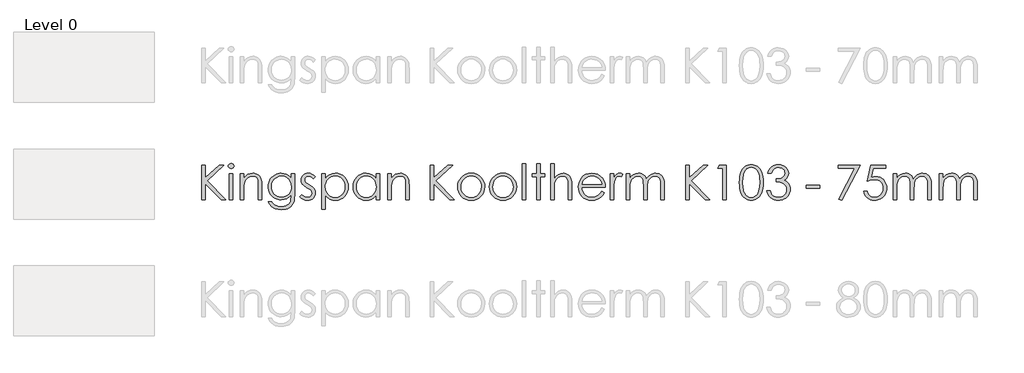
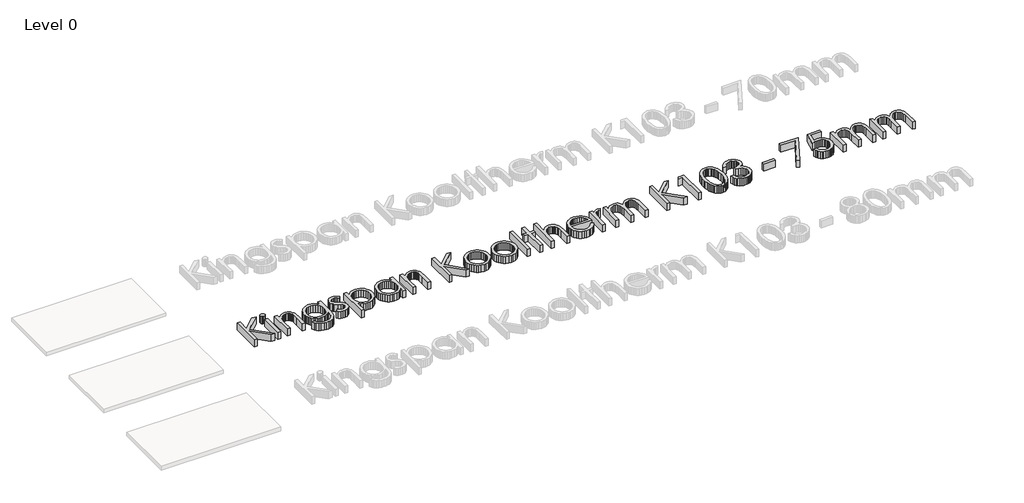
# One storey, part 8 of 13: 1 proxy.
"""IFC4 building model written with IfcOpenShell, lengths in millimetres."""

import ifcopenshell
import ifcopenshell.guid

model = None  # the IFC model being written
_history = None  # IfcOwnerHistory: only IFC2X3 demands one
_inside = {}  # id of a spatial element -> (the spatial element, [elements in it])
_under = {}  # id of a project, library or spatial element -> (it, [spatial elements below it])
_declared = {}  # id of a project -> (the project, [libraries it declares])
_typed = {}  # id of a type object -> (the type object, [elements of that type])
_made_of = {}  # id of a material, layer set ... -> (it, [elements and type objects made of it])


def new_model(schema):
    """Start an empty IFC model of exactly this schema.

    Asked for "IFC4X3", IfcOpenShell would pick the latest addendum, in which some entities
    have other attributes; the version numbers below select the first issue.
    IFC2X3 requires an IfcOwnerHistory on every rooted entity: one is made here for all.
    """
    global model, _history
    if schema == "IFC4X3":
        model = ifcopenshell.file(schema_version=(4, 3, 0, 0))
    else:
        model = ifcopenshell.file(schema=schema)
    _inside.clear()
    _under.clear()
    _declared.clear()
    _typed.clear()
    _made_of.clear()
    _history = None
    if model.schema == "IFC2X3":
        org = make("IfcOrganization", Name="unknown")
        user = make(
            "IfcPersonAndOrganization",
            ThePerson=make("IfcPerson", FamilyName="unknown"),
            TheOrganization=org,
        )
        app = make(
            "IfcApplication",
            ApplicationDeveloper=org,
            Version="unknown",
            ApplicationFullName="unknown",
            ApplicationIdentifier="unknown",
        )
        _history = make(
            "IfcOwnerHistory",
            OwningUser=user,
            OwningApplication=app,
            ChangeAction="ADDED",
            CreationDate=0,
        )
    return model


def make(cls, **values):
    """One entity of the class cls with the attributes given. An attribute that is None is left unset."""
    return model.create_entity(
        cls, **{name: value for name, value in values.items() if value is not None}
    )


def rooted(cls, **values):
    """An entity with a GlobalId (a new one), such as an element, a storey or a relation."""
    return make(cls, GlobalId=ifcopenshell.guid.new(), OwnerHistory=_history, **values)


def si_unit(unit_type, name, prefix=None):
    """IfcSIUnit, for example si_unit("LENGTHUNIT", "METRE", prefix="MILLI")."""
    return make("IfcSIUnit", UnitType=unit_type, Prefix=prefix, Name=name)


def assignment(units):
    """IfcUnitAssignment: the units of a project."""
    return None if units is None else make("IfcUnitAssignment", Units=units)


def point(xyz):
    """IfcCartesianPoint."""
    return None if xyz is None else make("IfcCartesianPoint", Coordinates=xyz)


def direction(xyz):
    """IfcDirection."""
    return None if xyz is None else make("IfcDirection", DirectionRatios=xyz)


def frame(location, z_axis=None, x_axis=None):
    """IfcAxis2Placement3D, a coordinate frame: its origin and axes. An axis left out is left unset."""
    return make(
        "IfcAxis2Placement3D",
        Location=point(location),
        Axis=direction(z_axis),
        RefDirection=direction(x_axis),
    )


def origin():
    """The frame at (0, 0, 0) with its axes left unset."""
    return frame((0.0, 0.0, 0.0))


def origin_with_axes():
    """The frame at (0, 0, 0) with the z axis (0, 0, 1) and the x axis (1, 0, 0) written out."""
    return frame((0.0, 0.0, 0.0), z_axis=(0.0, 0.0, 1.0), x_axis=(1.0, 0.0, 0.0))


def place(relative_to, where):
    """IfcLocalPlacement: puts the frame where relative to a parent placement (None: the world)."""
    return make(
        "IfcLocalPlacement", PlacementRelTo=relative_to, RelativePlacement=where
    )


def context(
    kind, dimensions, precision=None, world=None, true_north=None, identifier=None
):
    """IfcGeometricRepresentationContext, for example the 3D "Model" context."""
    return make(
        "IfcGeometricRepresentationContext",
        ContextIdentifier=identifier,
        ContextType=kind,
        CoordinateSpaceDimension=dimensions,
        Precision=precision,
        WorldCoordinateSystem=world,
        TrueNorth=true_north,
    )


def project(units=None, contexts=None):
    """IfcProject with its units and contexts."""
    return rooted(
        "IfcProject",
        Name="project",
        RepresentationContexts=contexts,
        UnitsInContext=assignment(units),
    )


def spatial(cls, under=None, at=None, **own):
    """A site, building, storey or space (cls), placed at a placement, below another one or the project."""
    s = rooted(cls, ObjectPlacement=at, **own)
    if under is not None:
        _under.setdefault(under.id(), (under, []))[1].append(s)
    return s


def polyline(points):
    """IfcPolyline through the points."""
    return make("IfcPolyline", Points=[point(p) for p in points])


def outline(outer, holes=None, kind="AREA"):
    """IfcArbitraryClosedProfileDef: a profile drawn as a closed curve; with holes, ...WithVoids."""
    if holes is None:
        return make("IfcArbitraryClosedProfileDef", ProfileType=kind, OuterCurve=outer)
    return make(
        "IfcArbitraryProfileDefWithVoids",
        ProfileType=kind,
        OuterCurve=outer,
        InnerCurves=holes,
    )


def extrude(swept, where, along, depth):
    """IfcExtrudedAreaSolid: the profile swept, set in the frame where, extruded along a direction by depth."""
    return make(
        "IfcExtrudedAreaSolid",
        SweptArea=swept,
        Position=where,
        ExtrudedDirection=direction(along),
        Depth=depth,
    )


def shape(context_of_items, identifier, shape_type, items):
    """IfcShapeRepresentation: the items that make up one representation, for example the "Body"."""
    return make(
        "IfcShapeRepresentation",
        ContextOfItems=context_of_items,
        RepresentationIdentifier=identifier,
        RepresentationType=shape_type,
        Items=items,
    )


def made_of(thing, what):
    """Note that an element or type object is made of a material, layer set ...; save() writes the relation."""
    if what is not None:
        _made_of.setdefault(what.id(), (what, []))[1].append(thing)
    return thing


def element(
    cls,
    number,
    at=None,
    inside=None,
    cuts=None,
    type_object=None,
    material=None,
    context=None,
    identifier="Body",
    shape_type=None,
    held_by="IfcProductDefinitionShape",
    body=None,
    shapes=None,
    **own,
):
    """One element of the class cls, such as IfcWall. Its Tag is "e" and its number.

    at: its placement. inside: the storey or other place that contains it. cuts: it is an
    opening in that element (IfcRelVoidsElement). A single representation is given by context,
    identifier, shape_type and body (its items); several are given by shapes. held_by: the class
    of the entity that holds the representations. save() writes the other relations.
    """
    e = rooted(cls, Tag="e%d" % number, ObjectPlacement=at, **own)
    if body is not None:
        shapes = [shape(context, identifier, shape_type, body)]
    if shapes is not None:
        e.Representation = make(held_by, Representations=shapes)
    if inside is not None:
        _inside.setdefault(inside.id(), (inside, []))[1].append(e)
    if cuts is not None:
        rooted(
            "IfcRelVoidsElement", RelatingBuildingElement=cuts, RelatedOpeningElement=e
        )
    if type_object is not None:
        _typed.setdefault(type_object.id(), (type_object, []))[1].append(e)
    return made_of(e, material)


def aggregate(whole, parts):
    """IfcRelAggregates: a whole, such as a stair, and the parts it consists of."""
    return rooted("IfcRelAggregates", RelatingObject=whole, RelatedObjects=parts)


def save(model, path):
    """Write the relations noted so far, then the file.

    IfcRelAggregates (storeys below a building ...), IfcRelContainedInSpatialStructure (elements
    in a storey), IfcRelDefinesByType, IfcRelAssociatesMaterial and IfcRelDeclares: one each for
    every whole, place, type object, material and project.
    """
    for whole, parts in _under.values():
        aggregate(whole, parts)
    for where, things in _inside.values():
        rooted(
            "IfcRelContainedInSpatialStructure",
            RelatedElements=things,
            RelatingStructure=where,
        )
    for kind, things in _typed.values():
        rooted("IfcRelDefinesByType", RelatedObjects=things, RelatingType=kind)
    for what, things in _made_of.values():
        rooted("IfcRelAssociatesMaterial", RelatedObjects=things, RelatingMaterial=what)
    for by, libraries in _declared.values():
        rooted("IfcRelDeclares", RelatingContext=by, RelatedDefinitions=libraries)
    model.write(path)


model = new_model("IFC4")

# Units and contexts
model_context = context("Model", 3, world=origin())
ifc_project = project(units=[si_unit("LENGTHUNIT", "METRE", prefix="MILLI")], contexts=[model_context])

# Site, building, storey
site = spatial("IfcSite", under=ifc_project)
building = spatial("IfcBuilding", under=site)
storey = spatial("IfcBuildingStorey", under=building, Name="Level 0", Elevation=0.0)

# Proxy
placement = place(None, origin())
element("IfcBuildingElementProxy", 1, Name="600mm KI_CenturyGothic", ObjectType="600mm KI_CenturyGothic", at=placement, inside=storey, context=model_context, shape_type="SweptSolid", body=[
    extrude(outline(polyline([(-3852.2663848, -4099.1034017), (-3792.944575, -4099.1034017), (-3792.944575, -4318.316027), (-3555.1938841, -4099.1034017), (-3471.6181051, -4099.1034017), (-3760.9664119, -4366.0515459), (-3441.9572002, -4692.3214999), (-3520.8984627, -4692.3214999), (-3792.944575, -4414.0960325), (-3792.944575, -4692.3214999), (-3852.2663848, -4692.3214999), (-3852.2663848, -4099.1034017)])), origin_with_axes(), (0.0, 0.0, 1.0), 150.0),
    extrude(outline(polyline([(-3348.1854852, -4069.4424967), (-3329.145347, -4072.7252792), (-3313.1176445, -4082.5736265), (-3302.226531, -4097.0178693), (-3298.5961598, -4114.088338), (-3302.226531, -4130.9270809), (-3313.1176445, -4145.2940817), (-3329.145347, -4155.142429), (-3348.1854852, -4158.4252115), (-3366.9938975, -4155.142429), (-3382.9443581, -4145.2940817), (-3393.8354717, -4130.9270809), (-3397.4658428, -4114.088338), (-3393.8354717, -4097.0178693), (-3382.9443581, -4082.5736265), (-3366.9938975, -4072.7252792), (-3348.1854852, -4069.4424967)])), origin_with_axes(), (0.0, 0.0, 1.0), 150.0),
    extrude(outline(polyline([(-3377.6919062, -4247.4079262), (-3318.3700964, -4247.4079262), (-3318.3700964, -4692.3214999), (-3377.6919062, -4692.3214999), (-3377.6919062, -4247.4079262)])), origin_with_axes(), (0.0, 0.0, 1.0), 150.0),
    extrude(outline(polyline([(-3189.8395084, -4247.4079262), (-3130.5176986, -4247.4079262), (-3130.5176986, -4326.5036726), (-3096.9946967, -4286.9944204), (-3060.0730495, -4259.303185), (-3019.7141359, -4242.9665147), (-2975.879335, -4237.5209579), (-2953.4357238, -4239.0995901), (-2932.2955704, -4243.8354865), (-2912.4588747, -4251.7286472), (-2893.9256368, -4262.7790723), (-2877.212412, -4276.5039994), (-2862.835756, -4292.4206667), (-2841.0921499, -4330.8292213), (-2833.6238199, -4355.2087086), (-2828.2892984, -4385.5551357), (-2824.0216812, -4464.1488095), (-2824.0216812, -4692.3214999), (-2883.343491, -4692.3214999), (-2883.343491, -4479.1337458), (-2883.343491, -4376.092998), (-2884.7290183, -4355.2956057), (-2889.8125035, -4337.2403023), (-2898.2849788, -4321.9270877), (-2910.1464442, -4309.355962), (-2924.7403432, -4299.5558909), (-2941.4101193, -4292.5558401), (-2980.977303, -4286.9557994), (-3005.3471351, -4289.1137461), (-3028.4038541, -4295.5875862), (-3050.1474602, -4306.3773197), (-3070.5779533, -4321.4829466), (-3088.6622225, -4339.7651482), (-3103.3671568, -4360.084606), (-3114.6927562, -4382.44132), (-3122.6390208, -4406.8352901), (-3128.5480292, -4453.9142525), (-3130.5176986, -4528.4141035), (-3130.5176986, -4692.3214999), (-3189.8395084, -4692.3214999), (-3189.8395084, -4247.4079262)])), origin_with_axes(), (0.0, 0.0, 1.0), 150.0),
    extrude(outline(polyline([(-2319.7862977, -4247.4079262), (-2260.4644879, -4247.4079262), (-2260.4644879, -4598.395301), (-2264.5196897, -4678.6496765), (-2269.588692, -4709.4499001), (-2276.6852953, -4734.0321474), (-2289.9371156, -4762.6454585), (-2307.2924139, -4787.7732271), (-2328.7511904, -4809.4154531), (-2354.3134448, -4827.5721366), (-2383.3226209, -4841.9343098), (-2415.122162, -4852.1930049), (-2449.7120682, -4858.348222), (-2487.0923395, -4860.3999611), (-2541.0458345, -4856.3833802), (-2589.206184, -4844.3336376), (-2630.260275, -4825.5059147), (-2662.8949946, -4801.1553932), (-2690.2000204, -4767.8061856), (-2715.2650299, -4721.9824048), (-2655.94322, -4721.9824048), (-2642.4355358, -4743.151524), (-2627.0933555, -4761.3951046), (-2609.9166791, -4776.7131468), (-2590.9055067, -4789.1056506), (-2569.7894914, -4798.6691682), (-2546.2982864, -4805.5002523), (-2492.1903075, -4810.9651195), (-2438.5071593, -4805.6354257), (-2415.083541, -4798.9733084), (-2393.93856, -4789.6463441), (-2359.6624492, -4765.6047903), (-2336.8567664, -4736.1176798), (-2329.3884364, -4717.4782342), (-2324.0539149, -4693.7697863), (-2319.7862977, -4631.1458835), (-2319.7862977, -4608.4367532), (-2354.757586, -4644.2190818), (-2396.6420279, -4670.6165148), (-2443.392712, -4686.8952536), (-2492.9627269, -4692.3214999), (-2522.4063889, -4690.4242447), (-2550.9521133, -4684.7324793), (-2578.5999001, -4675.2462036), (-2605.3497494, -4661.9654175), (-2630.1540674, -4645.4742634), (-2651.9652601, -4626.3568832), (-2670.7833277, -4604.6132772), (-2686.6082702, -4580.2434451), (-2699.1456025, -4553.9280817), (-2708.1008399, -4526.3478816), (-2713.4739824, -4497.5028447), (-2715.2650299, -4467.392971), (-2713.3967404, -4437.1044753), (-2707.7918722, -4407.8780563), (-2698.4504251, -4379.713714), (-2685.3723991, -4352.6114483), (-2668.9971079, -4327.4257483), (-2649.7638648, -4305.0111029), (-2627.67267, -4285.367512), (-2602.7235235, -4268.4949758), (-2575.9833294, -4254.943843), (-2548.5189922, -4245.2644624), (-2520.3305117, -4239.456834), (-2491.4178881, -4237.5209579), (-2444.5320306, -4242.4644421), (-2400.8903346, -4257.2948945), (-2359.6045177, -4283.8661218), (-2319.7862977, -4324.0319306), (-2319.7862977, -4247.4079262)]), holes=[polyline([(-2484.1571458, -4286.9557994), (-2529.0154023, -4292.9806707), (-2570.5908765, -4311.0552847), (-2606.2187212, -4339.7699758), (-2633.2340897, -4377.7150788), (-2650.2659375, -4421.9940208), (-2655.94322, -4469.7102292), (-2653.0080263, -4505.6229036), (-2644.2024452, -4538.2817613), (-2629.5264766, -4567.6868023), (-2608.9801206, -4593.8380266), (-2583.7606272, -4615.296803), (-2555.0652466, -4630.6245004), (-2522.8939786, -4639.8211189), (-2487.2468234, -4642.8866584), (-2451.3244937, -4639.845257), (-2419.1001219, -4630.7210528), (-2390.573708, -4615.5140459), (-2365.7452519, -4594.2242363), (-2345.6382095, -4567.9812872), (-2331.2760363, -4537.9148621), (-2322.6587323, -4504.024961), (-2319.7862977, -4466.3115838), (-2325.0773706, -4417.6105407), (-2340.9505892, -4374.3936754), (-2366.4983608, -4338.1672056), (-2400.8130926, -4310.4373492), (-2440.9982119, -4292.8261869), (-2484.1571458, -4286.9557994)])]), origin_with_axes(), (0.0, 0.0, 1.0), 150.0),
    extrude(outline(polyline([(-1904.5336289, -4298.6965743), (-1940.9918246, -4336.390641), (-1962.9575012, -4314.7628978), (-1984.6721416, -4299.3145098), (-2006.1357456, -4290.045477), (-2027.3483133, -4286.9557994), (-2052.181597, -4291.6289368), (-2073.2300256, -4305.6483489), (-2087.5970264, -4325.8857371), (-2092.3860267, -4349.212803), (-2088.4466878, -4370.7633042), (-2076.628671, -4391.2324183), (-2052.0657341, -4413.400855), (-2010.2006027, -4439.122421), (-1958.3326401, -4471.9888664), (-1939.8428507, -4487.8138088), (-1926.315856, -4503.2332311), (-1909.9791857, -4535.9065716), (-1904.5336289, -4572.4420092), (-1906.9474396, -4598.5884059), (-1914.1888714, -4622.6492701), (-1926.2579245, -4644.624602), (-1943.1545989, -4664.5144015), (-1963.6719892, -4681.0055557), (-1986.6031901, -4692.7849515), (-2011.9482016, -4699.852589), (-2039.7070237, -4702.2084682), (-2077.4397114, -4698.3270607), (-2113.3958344, -4686.6828383), (-2145.4512394, -4668.2027042), (-2171.4817731, -4643.8135617), (-2135.7959969, -4603.3387852), (-2114.0041146, -4624.9665283), (-2091.5749863, -4640.4149163), (-2068.5086121, -4649.6839491), (-2044.8049918, -4652.7736267), (-2013.637869, -4647.1349651), (-1987.4914724, -4630.2189802), (-1969.7644472, -4605.6560434), (-1963.8554388, -4577.0765256), (-1967.7561567, -4553.2860081), (-1979.4583106, -4532.2762005), (-2005.0253927, -4510.5712154), (-2050.2119275, -4483.7682622), (-2099.762632, -4453.1032121), (-2117.441381, -4437.9444814), (-2130.3890611, -4422.9016136), (-2146.3781427, -4390.7689666), (-2151.7078365, -4354.310771), (-2149.5305794, -4330.2643896), (-2142.9988078, -4308.3325063), (-2132.1125219, -4288.5151211), (-2116.8717217, -4270.812234), (-2098.309518, -4256.2473007), (-2077.4590218, -4245.8437769), (-2054.3202332, -4239.6016627), (-2028.8931521, -4237.5209579), (-1997.9481, -4241.3444339), (-1966.9064954, -4252.814862), (-1935.7683384, -4271.9322421), (-1904.5336289, -4298.6965743)])), origin_with_axes(), (0.0, 0.0, 1.0), 150.0),
    extrude(outline(polyline([(-1795.7769776, -4247.4079262), (-1736.4551678, -4247.4079262), (-1736.4551678, -4328.5119631), (-1700.9238754, -4288.2689124), (-1660.4490989, -4259.9211205), (-1614.9922173, -4243.1209986), (-1564.5146096, -4237.5209579), (-1520.0618732, -4241.7596094), (-1478.9305402, -4254.4755637), (-1441.1206107, -4275.668821), (-1406.6320845, -4305.3393811), (-1377.9077381, -4340.9768811), (-1357.3903478, -4380.070958), (-1345.0799137, -4422.6216116), (-1340.9764356, -4468.628842), (-1345.0412927, -4515.5291824), (-1357.235864, -4558.7508754), (-1377.5601494, -4598.293921), (-1406.014149, -4634.1583192), (-1440.2130179, -4663.9302594), (-1477.7719111, -4685.1959309), (-1518.6908288, -4697.9553339), (-1562.9697708, -4702.2084682), (-1612.6170277, -4696.743601), (-1658.0545988, -4680.3489992), (-1699.3211052, -4653.1019049), (-1736.4551678, -4615.07956), (-1736.4551678, -4850.5129928), (-1795.7769776, -4850.5129928), (-1795.7769776, -4247.4079262)]), holes=[polyline([(-1568.5311905, -4286.9557994), (-1602.5852307, -4290.2530647), (-1633.8392507, -4300.1448607), (-1662.2932503, -4316.6311872), (-1687.9472295, -4339.7120444), (-1709.1694525, -4367.6977647), (-1724.3281832, -4398.8986808), (-1733.4234216, -4433.3147926), (-1736.4551678, -4470.9461002), (-1731.048232, -4519.8016272), (-1714.8274246, -4563.4819442), (-1688.5265441, -4600.3263495), (-1652.8793888, -4628.6741414), (-1611.4390881, -4646.7487554), (-1567.7587711, -4652.7736267), (-1525.0632888, -4646.7101344), (-1485.0326535, -4628.5196576), (-1450.2544701, -4599.4187567), (-1423.3163435, -4560.6239924), (-1406.05277, -4515.9588407), (-1400.2982454, -4469.2467775), (-1405.9948385, -4422.3029886), (-1423.0846177, -4377.8695627), (-1449.8103289, -4339.5189395), (-1484.414718, -4310.8235589), (-1524.7157001, -4292.9227393), (-1568.5311905, -4286.9557994)])]), origin_with_axes(), (0.0, 0.0, 1.0), 150.0),
    extrude(outline(polyline([(-807.0801472, -4247.4079262), (-807.0801472, -4692.3214999), (-866.401957, -4692.3214999), (-866.401957, -4616.4699149), (-903.4780882, -4654.3184655), (-944.8797679, -4681.0441767), (-990.4525125, -4696.9173953), (-1040.0418379, -4702.2084682), (-1084.3159523, -4697.9553339), (-1125.2203871, -4685.1959309), (-1162.7551422, -4663.9302594), (-1196.9202178, -4634.1583192), (-1225.340424, -4598.293921), (-1245.6405713, -4558.7508754), (-1257.8206597, -4515.5291824), (-1261.8806892, -4468.628842), (-1257.7820388, -4422.6216116), (-1245.4860875, -4380.070958), (-1224.9928353, -4340.9768811), (-1196.3022822, -4305.3393811), (-1161.8475494, -4275.668821), (-1124.061758, -4254.4755637), (-1082.9449079, -4241.7596094), (-1038.4969991, -4237.5209579), (-987.7490446, -4243.1209986), (-942.0990581, -4259.9211205), (-921.2051134, -4272.6081091), (-901.6242816, -4288.2689124), (-866.401957, -4328.5119631), (-866.401957, -4247.4079262), (-807.0801472, -4247.4079262)]), holes=[polyline([(-1034.3259343, -4286.9557994), (-1078.1414247, -4292.9227393), (-1118.4424068, -4310.8235589), (-1153.0467959, -4339.5189395), (-1179.7725071, -4377.8695627), (-1196.8622863, -4422.3029886), (-1202.5588794, -4469.2467775), (-1196.8043548, -4515.9588407), (-1179.5407813, -4560.6239924), (-1152.6026548, -4599.4187567), (-1117.8244713, -4628.5196576), (-1077.6779731, -4646.7101344), (-1034.6349021, -4652.7736267), (-991.0125165, -4646.7487554), (-949.7460102, -4628.6741414), (-914.2726493, -4600.3263495), (-888.0297002, -4563.4819442), (-871.8088928, -4519.8016272), (-866.401957, -4470.9461002), (-869.4337032, -4433.3147926), (-878.5289416, -4398.8986808), (-893.6876723, -4367.6977647), (-914.9098953, -4339.7120444), (-940.5638746, -4316.6311872), (-969.0178742, -4300.1448607), (-1000.2718941, -4290.2530647), (-1034.3259343, -4286.9557994)])]), origin_with_axes(), (0.0, 0.0, 1.0), 150.0),
    extrude(outline(polyline([(-668.662591, -4247.4079262), (-609.3407811, -4247.4079262), (-609.3407811, -4326.5036726), (-575.8177792, -4286.9944204), (-538.896132, -4259.303185), (-498.5372184, -4242.9665147), (-454.7024175, -4237.5209579), (-432.2588064, -4239.0995901), (-411.1186529, -4243.8354865), (-391.2819572, -4251.7286472), (-372.7487193, -4262.7790723), (-356.0354946, -4276.5039994), (-341.6588385, -4292.4206667), (-319.9152324, -4330.8292213), (-312.4469024, -4355.2087086), (-307.1123809, -4385.5551357), (-302.8447637, -4464.1488095), (-302.8447637, -4692.3214999), (-362.1665735, -4692.3214999), (-362.1665735, -4479.1337458), (-362.1665735, -4376.092998), (-363.5521008, -4355.2956057), (-368.635586, -4337.2403023), (-377.1080613, -4321.9270877), (-388.9695267, -4309.355962), (-403.5634257, -4299.5558909), (-420.2332018, -4292.5558401), (-459.8003855, -4286.9557994), (-484.1702176, -4289.1137461), (-507.2269366, -4295.5875862), (-528.9705427, -4306.3773197), (-549.4010358, -4321.4829466), (-567.485305, -4339.7651482), (-582.1902393, -4360.084606), (-593.5158387, -4382.44132), (-601.4621033, -4406.8352901), (-607.3711117, -4453.9142525), (-609.3407811, -4528.4141035), (-609.3407811, -4692.3214999), (-668.662591, -4692.3214999), (-668.662591, -4247.4079262)])), origin_with_axes(), (0.0, 0.0, 1.0), 150.0),
    extrude(outline(polyline([(62.9730635, -4099.1034017), (122.2948734, -4099.1034017), (122.2948734, -4318.316027), (360.0455643, -4099.1034017), (443.6213432, -4099.1034017), (154.2730365, -4366.0515459), (473.2822481, -4692.3214999), (394.3409856, -4692.3214999), (122.2948734, -4414.0960325), (122.2948734, -4692.3214999), (62.9730635, -4692.3214999), (62.9730635, -4099.1034017)])), origin_with_axes(), (0.0, 0.0, 1.0), 150.0),
    extrude(outline(polyline([(760.1588128, -4237.5209579), (809.4681362, -4242.1458191), (854.3553585, -4256.0204025), (894.8204798, -4279.1447083), (930.8635, -4311.5187363), (957.7630055, -4346.7507161), (976.9769381, -4385.091684), (988.5052976, -4426.54164), (992.3480841, -4471.1005841), (988.283227, -4515.9153921), (976.0886558, -4557.8239721), (955.7643703, -4596.8263241), (927.3103707, -4632.9224481), (892.4742558, -4663.2350819), (853.0036246, -4684.8869632), (808.8984769, -4697.8780919), (760.1588128, -4702.2084682), (711.2839754, -4697.8780919), (667.0822753, -4684.8869632), (627.5537126, -4663.2350819), (592.6982872, -4632.9224481), (564.2442876, -4596.8263241), (543.9200022, -4557.8239721), (531.7254309, -4515.9153921), (527.6605738, -4471.1005841), (531.5033603, -4426.7347449), (543.0317198, -4385.4006518), (562.2456524, -4347.0983049), (589.145158, -4311.8277041), (625.2074886, -4279.3185026), (665.7305413, -4256.0976445), (710.7143161, -4242.1651295), (760.1588128, -4237.5209579)]), holes=[polyline([(760.004329, -4286.9557994), (725.7282181, -4290.3303067), (693.9624704, -4300.4538284), (664.7070856, -4317.3263647), (637.962064, -4340.9479154), (615.6584538, -4369.3584664), (599.7273037, -4400.5980035), (590.1686137, -4434.6665266), (586.9823836, -4471.5640357), (592.7948396, -4519.2995546), (610.2322075, -4563.6364281), (637.5758543, -4601.4270471), (673.1071466, -4629.5238028), (714.6439998, -4646.9611707), (760.004329, -4652.7736267), (805.3646581, -4646.9611707), (846.9015113, -4629.5238028), (882.4328037, -4601.4270471), (909.7764504, -4563.6364281), (927.2138183, -4519.2995546), (933.0262743, -4471.5640357), (929.8255614, -4434.6665266), (920.2234227, -4400.5980035), (904.2198583, -4369.3584664), (881.8148681, -4340.9479154), (854.9974321, -4317.3263647), (825.7565303, -4300.4538284), (794.0921625, -4290.3303067), (760.004329, -4286.9557994)])]), origin_with_axes(), (0.0, 0.0, 1.0), 150.0),
    extrude(outline(polyline([(1303.9420695, -4237.5209579), (1353.2513929, -4242.1458191), (1398.1386152, -4256.0204025), (1438.6037365, -4279.1447083), (1474.6467567, -4311.5187363), (1501.5462622, -4346.7507161), (1520.7601948, -4385.091684), (1532.2885543, -4426.54164), (1536.1313408, -4471.1005841), (1532.0664837, -4515.9153921), (1519.8719125, -4557.8239721), (1499.547627, -4596.8263241), (1471.0936274, -4632.9224481), (1436.2575126, -4663.2350819), (1396.7868813, -4684.8869632), (1352.6817336, -4697.8780919), (1303.9420695, -4702.2084682), (1255.0672321, -4697.8780919), (1210.865532, -4684.8869632), (1171.3369693, -4663.2350819), (1136.4815439, -4632.9224481), (1108.0275443, -4596.8263241), (1087.7032589, -4557.8239721), (1075.5086876, -4515.9153921), (1071.4438305, -4471.1005841), (1075.286617, -4426.7347449), (1086.8149766, -4385.4006518), (1106.0289091, -4347.0983049), (1132.9284147, -4311.8277041), (1168.9907453, -4279.3185026), (1209.5137981, -4256.0976445), (1254.4975728, -4242.1651295), (1303.9420695, -4237.5209579)]), holes=[polyline([(1303.7875857, -4286.9557994), (1269.5114748, -4290.3303067), (1237.7457271, -4300.4538284), (1208.4903423, -4317.3263647), (1181.7453207, -4340.9479154), (1159.4417105, -4369.3584664), (1143.5105604, -4400.5980035), (1133.9518704, -4434.6665266), (1130.7656404, -4471.5640357), (1136.5780963, -4519.2995546), (1154.0154643, -4563.6364281), (1181.359111, -4601.4270471), (1216.8904033, -4629.5238028), (1258.4272565, -4646.9611707), (1303.7875857, -4652.7736267), (1349.1479149, -4646.9611707), (1390.684768, -4629.5238028), (1426.2160604, -4601.4270471), (1453.5597071, -4563.6364281), (1470.997075, -4519.2995546), (1476.809531, -4471.5640357), (1473.6088181, -4434.6665266), (1464.0066795, -4400.5980035), (1448.003115, -4369.3584664), (1425.5981249, -4340.9479154), (1398.7806889, -4317.3263647), (1369.539787, -4300.4538284), (1337.8754193, -4290.3303067), (1303.7875857, -4286.9557994)])]), origin_with_axes(), (0.0, 0.0, 1.0), 150.0),
    extrude(outline(polyline([(1635.0010238, -4079.3294651), (1694.3228337, -4079.3294651), (1694.3228337, -4692.3214999), (1635.0010238, -4692.3214999), (1635.0010238, -4079.3294651)])), origin_with_axes(), (0.0, 0.0, 1.0), 150.0),
    extrude(outline(polyline([(1882.1752314, -4079.3294651), (1941.4970413, -4079.3294651), (1941.4970413, -4247.4079262), (2020.5927877, -4247.4079262), (2020.5927877, -4296.8427677), (1941.4970413, -4296.8427677), (1941.4970413, -4692.3214999), (1882.1752314, -4692.3214999), (1882.1752314, -4296.8427677), (1803.079485, -4296.8427677), (1803.079485, -4247.4079262), (1882.1752314, -4247.4079262), (1882.1752314, -4079.3294651)])), origin_with_axes(), (0.0, 0.0, 1.0), 150.0),
    extrude(outline(polyline([(2119.4624707, -4079.3294651), (2178.7842806, -4079.3294651), (2178.7842806, -4328.0485114), (2212.5583188, -4288.3461544), (2249.6151394, -4260.0756044), (2289.9161216, -4243.1596195), (2333.4226442, -4237.5209579), (2355.8662553, -4239.0995901), (2377.0064088, -4243.8354865), (2396.8431044, -4251.7286472), (2415.3763424, -4262.7790723), (2432.0895671, -4276.4895166), (2446.4662232, -4292.3627352), (2468.2098293, -4330.5974955), (2475.6781593, -4354.9045684), (2481.0126808, -4385.2654784), (2485.280298, -4464.1488095), (2485.280298, -4692.3214999), (2425.9584882, -4692.3214999), (2425.9584882, -4479.1337458), (2424.5681332, -4414.752589), (2420.3970685, -4376.092998), (2406.879729, -4337.2403023), (2397.1665551, -4321.9270877), (2385.4837117, -4309.355962), (2371.840854, -4299.5558909), (2356.2476374, -4292.5558401), (2319.2101273, -4286.9557994), (2296.3416854, -4289.1137461), (2274.6994594, -4295.5875862), (2254.2834492, -4306.3773197), (2235.0936547, -4321.4829466), (2218.1052556, -4339.7651482), (2204.2934312, -4360.084606), (2193.6581816, -4382.44132), (2186.1995068, -4406.8352901), (2180.6380871, -4453.6825267), (2178.7842806, -4528.4141035), (2178.7842806, -4692.3214999), (2119.4624707, -4692.3214999), (2119.4624707, -4079.3294651)])), origin_with_axes(), (0.0, 0.0, 1.0), 150.0),
    extrude(outline(polyline([(2991.0605203, -4544.0169753), (3038.950523, -4569.1978477), (3013.3255094, -4611.0822896), (2984.0315038, -4644.0452875), (2950.952643, -4669.1296074), (2913.9730643, -4687.3780157), (2872.4941426, -4698.5008551), (2825.9172528, -4702.2084682), (2774.4258447, -4697.7767119), (2728.8627554, -4684.481443), (2689.227985, -4662.3226615), (2655.5215335, -4631.3003674), (2628.6220279, -4594.6973431), (2609.4080954, -4555.7963712), (2597.8797358, -4514.5974515), (2594.0369493, -4471.1005841), (2597.3197318, -4430.2202874), (2607.1680791, -4391.618628), (2623.5819913, -4355.2956057), (2646.5614684, -4321.2512207), (2682.7493173, -4284.6192308), (2724.5758277, -4258.4535236), (2772.0409998, -4242.7540993), (2825.1448334, -4237.5209579), (2879.7935059, -4242.8892727), (2928.6490329, -4258.9942172), (2971.7114143, -4285.8357913), (3008.9806503, -4323.4139951), (3030.4539096, -4355.585263), (3045.9022976, -4391.541386), (3055.3258143, -4431.2823641), (3058.7244596, -4474.8081972), (2653.3587591, -4474.8081972), (2657.095338, -4512.0629503), (2666.6057518, -4545.8128504), (2681.8900007, -4576.0578975), (2702.9480845, -4602.7980916), (2728.3124066, -4624.6623882), (2756.5153699, -4640.2797429), (2787.5569744, -4649.6501557), (2821.4372203, -4652.7736267), (2854.9602222, -4649.761191), (2887.5563208, -4640.7238841), (2917.2944677, -4626.6851615), (2942.2436143, -4608.668479), (2965.725164, -4582.5027719), (2991.0605203, -4544.0169753)]), holes=[polyline([(2999.4026498, -4425.3733557), (2984.9777175, -4382.8516678), (2965.1844704, -4349.8307385), (2939.0766947, -4324.3022774), (2905.7081767, -4304.257994), (2867.7630738, -4291.2813481), (2827.9255433, -4286.9557994), (2795.503239, -4289.6689226), (2765.4368139, -4297.808292), (2737.726268, -4311.3739077), (2712.3716012, -4330.3657696), (2695.8321708, -4348.179692), (2681.4362043, -4369.9522638), (2669.1837016, -4395.683485), (2659.0746627, -4425.3733557), (2999.4026498, -4425.3733557)])]), origin_with_axes(), (0.0, 0.0, 1.0), 150.0),
    extrude(outline(polyline([(3137.820206, -4247.4079262), (3197.1420159, -4247.4079262), (3197.1420159, -4311.8277041), (3222.6897875, -4278.7874643), (3249.589293, -4255.6728138), (3277.7632906, -4242.0589219), (3307.1345382, -4237.5209579), (3330.4616041, -4241.305813), (3355.3335087, -4252.6603781), (3325.8270877, -4294.6799934), (3297.2475699, -4286.9557994), (3270.8308265, -4292.9034288), (3245.3409863, -4310.7463169), (3223.2884125, -4341.1023993), (3207.183468, -4384.5896114), (3199.6523789, -4442.7141712), (3197.1420159, -4540.1548783), (3197.1420159, -4692.3214999), (3137.820206, -4692.3214999), (3137.820206, -4247.4079262)])), origin_with_axes(), (0.0, 0.0, 1.0), 150.0),
    extrude(outline(polyline([(3414.6553185, -4247.4079262), (3473.9771284, -4247.4079262), (3473.9771284, -4323.5684789), (3503.5607913, -4287.0716623), (3533.9168737, -4261.9294109), (3577.3268439, -4243.6230712), (3622.8995884, -4237.5209579), (3653.7384329, -4240.668567), (3682.9165757, -4250.1113941), (3708.6767627, -4264.7873627), (3729.2617397, -4283.634396), (3746.0425511, -4309.0663047), (3760.3902414, -4343.4968994), (3775.16759, -4319.0981017), (3791.6925376, -4297.808292), (3809.965084, -4279.6274704), (3829.9852293, -4264.5556369), (3851.2798666, -4252.7279648), (3873.375889, -4244.2796277), (3896.2732965, -4239.2106253), (3919.9720892, -4237.5209579), (3962.3006723, -4243.3334139), (3981.4952943, -4250.5989839), (3999.3768034, -4260.7707818), (4015.4914031, -4273.53984), (4029.385297, -4288.5971907), (4050.5109676, -4325.5767694), (4057.8103309, -4348.9521114), (4063.0241619, -4377.5219739), (4067.1952266, -4450.2452603), (4067.1952266, -4692.3214999), (4007.8734168, -4692.3214999), (4007.8734168, -4446.6921311), (4005.4209852, -4385.5744462), (3998.0636904, -4347.1272706), (3984.7587663, -4322.6608861), (3964.4634466, -4303.4855746), (3938.3942919, -4291.0882432), (3907.7678627, -4286.9557994), (3888.1194443, -4288.5054659), (3869.3399976, -4293.1544651), (3834.3880198, -4311.7504621), (3805.6540182, -4340.6968791), (3785.8800816, -4377.9468046), (3779.1889985, -4402.1042213), (3774.4096535, -4433.1747916), (3770.5861775, -4516.0553931), (3770.5861775, -4692.3214999), (3711.2643677, -4692.3214999), (3711.2643677, -4461.9860352), (3708.850557, -4393.530366), (3701.6091252, -4351.2983353), (3688.3621325, -4325.0553863), (3667.9316394, -4304.5669617), (3641.6114484, -4291.35859), (3610.6953619, -4286.9557994), (3573.7544042, -4292.9999812), (3539.2465676, -4311.1325266), (3510.2808401, -4339.499629), (3489.9662099, -4376.2474819), (3477.9743988, -4428.0768236), (3473.9771284, -4501.6883923), (3473.9771284, -4692.3214999), (3414.6553185, -4692.3214999), (3414.6553185, -4247.4079262)])), origin_with_axes(), (0.0, 0.0, 1.0), 150.0),
    extrude(outline(polyline([(4433.0130538, -4099.1034017), (4492.3348637, -4099.1034017), (4492.3348637, -4318.316027), (4730.0855546, -4099.1034017), (4813.6613335, -4099.1034017), (4524.3130268, -4366.0515459), (4843.3222385, -4692.3214999), (4764.3809759, -4692.3214999), (4492.3348637, -4414.0960325), (4492.3348637, -4692.3214999), (4433.0130538, -4692.3214999), (4433.0130538, -4099.1034017)])), origin_with_axes(), (0.0, 0.0, 1.0), 150.0),
    extrude(outline(polyline([(5010.6282802, -4099.1034017), (5125.1008351, -4099.1034017), (5125.1008351, -4692.3214999), (5065.7790253, -4692.3214999), (5065.7790253, -4148.5382432), (4976.7963106, -4148.5382432), (5010.6282802, -4099.1034017)])), origin_with_axes(), (0.0, 0.0, 1.0), 150.0),
    extrude(outline(polyline([(5352.5011061, -4395.8669347), (5354.0797383, -4341.4355052), (5358.8156347, -4293.5406748), (5366.7087954, -4252.1824436), (5377.7592204, -4217.3608116), (5391.6869077, -4187.7192172), (5408.2118552, -4161.9010988), (5427.334063, -4139.9064564), (5449.053531, -4121.73529), (5472.747496, -4107.5082902), (5497.793195, -4097.3461475), (5524.190628, -4091.2488619), (5551.9397949, -4089.2164334), (5580.1427582, -4091.2633448), (5606.974677, -4097.404079), (5632.4355515, -4107.638636), (5656.5253815, -4121.9670159), (5678.7083011, -4140.3843909), (5698.4484443, -4162.8859335), (5715.7458112, -4189.4716437), (5730.6004018, -4220.1415214), (5742.5294539, -4255.6583309), (5751.0502054, -4296.7848363), (5756.1626563, -4343.5210375), (5757.8668066, -4395.8669347), (5756.1867944, -4448.0535203), (5751.1467578, -4494.6207548), (5742.7466968, -4535.5686382), (5730.9866115, -4570.8971704), (5716.2768496, -4601.4222195), (5699.0277589, -4627.9596535), (5679.2393394, -4650.5094723), (5656.9115912, -4669.071676), (5632.6527944, -4683.5690226), (5607.0712295, -4693.9242701), (5580.1668963, -4700.1374187), (5551.9397949, -4702.2084682), (5524.2147661, -4700.2001778), (5497.8897474, -4694.1753064), (5472.964739, -4684.1338543), (5449.4397407, -4670.0758212), (5427.8651013, -4652.0398282), (5408.7911698, -4630.0644964), (5392.2179461, -4604.1498255), (5378.1454301, -4574.2958158), (5366.9260384, -4539.2762513), (5358.9121871, -4497.8649163), (5354.1038764, -4450.0618107), (5352.5011061, -4395.8669347)]), holes=[polyline([(5411.8229159, -4395.7124508), (5416.206396, -4484.038609), (5421.6857461, -4519.0195525), (5429.3568363, -4547.8790723), (5439.1713903, -4572.1185586), (5451.0811319, -4593.2394015), (5465.0860611, -4611.2416011), (5481.1861779, -4626.1251574), (5516.4857445, -4646.1115094), (5534.8886366, -4651.1080973), (5553.7936014, -4652.7736267), (5572.7854634, -4651.1418907), (5591.1400794, -4646.2466828), (5625.9375733, -4626.665851), (5641.694929, -4611.9898824), (5655.4439943, -4594.0697524), (5667.1847692, -4572.9054608), (5676.9172536, -4548.4970078), (5686.3793912, -4515.1381451), (5693.138061, -4478.5544313), (5698.5449967, -4395.7124508), (5693.7173755, -4314.1063413), (5687.682849, -4279.4150551), (5679.2345118, -4248.7982811), (5668.652366, -4222.135329), (5656.2164137, -4199.3055082), (5641.9266548, -4180.3088186), (5625.7830894, -4165.1452603), (5590.7152487, -4145.2747712), (5572.4861509, -4140.307149), (5553.7936014, -4138.6512749), (5534.7776014, -4140.307149), (5516.3505711, -4145.2747712), (5481.2634199, -4165.1452603), (5465.3177869, -4179.9564022), (5451.3900996, -4197.8958428), (5439.480358, -4218.9635819), (5429.5885621, -4243.1596195), (5421.8160919, -4272.0143117), (5416.2643275, -4307.0580143), (5411.8229159, -4395.7124508)])]), origin_with_axes(), (0.0, 0.0, 1.0), 150.0),
    extrude(outline(polyline([(5896.2843628, -4237.5209579), (5836.962553, -4237.5209579), (5847.4867673, -4203.8917483), (5861.9116996, -4174.3756721), (5880.2373498, -4148.9727291), (5902.463718, -4127.6829194), (5927.7314876, -4110.8538318), (5955.181342, -4098.8330549), (5984.8132812, -4091.6205887), (6016.6273051, -4089.2164334), (6062.9145376, -4094.3723328), (6105.9962296, -4109.8400313), (6142.7827034, -4134.0553795), (6170.1842816, -4165.454228), (6187.2161294, -4201.2365567), (6192.8934119, -4238.6023451), (6188.2106193, -4274.037085), (6174.1622415, -4305.5711069), (6150.7482785, -4333.2044109), (6117.9687303, -4356.936997), (6155.3538292, -4378.1012885), (6185.3237018, -4407.2987418), (6201.6120959, -4431.398227), (6213.2466631, -4456.8880672), (6220.2274034, -4483.7682622), (6222.5543169, -4512.0388122), (6220.8549942, -4536.7031292), (6215.7570261, -4560.7977868), (6207.2604128, -4584.3227851), (6195.365154, -4607.2781241), (6180.5347016, -4628.6644862), (6163.232507, -4647.4825538), (6143.4585704, -4663.7323269), (6121.2128917, -4677.4138055), (6097.0361646, -4688.2614704), (6071.4690825, -4696.0098025), (6044.5116454, -4700.6588018), (6016.1638535, -4702.2084682), (5978.6290984, -4699.5387936), (5944.3481599, -4691.52977), (5913.3210382, -4678.1813973), (5885.5477332, -4659.4936754), (5861.6654909, -4635.6403989), (5842.3115573, -4606.795362), (5827.4859325, -4572.9585647), (5817.1886164, -4534.130007), (5876.5104262, -4534.130007), (5895.5505644, -4584.8779615), (5907.6485832, -4604.169136), (5921.4652352, -4619.4051087), (5941.5288291, -4634.0038353), (5964.180028, -4644.4314972), (5989.4188318, -4650.6880943), (6017.2452407, -4652.7736267), (6048.6054683, -4650.2777465), (6076.7215344, -4642.7901059), (6101.593439, -4630.310705), (6123.2211822, -4612.8395438), (6140.7261368, -4592.0180133), (6153.2296758, -4569.487505), (6160.7317992, -4545.2480188), (6163.232507, -4519.2995546), (6158.2310914, -4484.7337865), (6143.2268446, -4452.4080346), (6119.8032263, -4425.0450774), (6089.5436964, -4405.3676933), (6046.6357988, -4392.5648417), (5985.2670776, -4385.8254825), (5985.2670776, -4336.390641), (6027.1515195, -4332.7409593), (6065.0580014, -4321.7919143), (6096.0706403, -4305.2042077), (6117.2735528, -4284.6385412), (6129.4970898, -4261.0797496), (6133.5716021, -4235.5126675), (6131.5102078, -4216.4821845), (6125.326025, -4198.7841251), (6115.0190537, -4182.4184891), (6100.5892938, -4167.3852765), (6083.0119248, -4154.8141508), (6063.2621263, -4145.8347753), (6041.3398983, -4140.44715), (6017.2452407, -4138.6512749), (5979.2228958, -4144.270626), (5946.7233496, -4161.1286794), (5932.4191078, -4174.3322235), (5919.2445295, -4191.4654513), (5896.2843628, -4237.5209579)])), origin_with_axes(), (0.0, 0.0, 1.0), 150.0),
    extrude(outline(polyline([(6499.3894294, -4445.1472923), (6726.7897004, -4445.1472923), (6726.7897004, -4494.5821338), (6499.3894294, -4494.5821338), (6499.3894294, -4445.1472923)])), origin_with_axes(), (0.0, 0.0, 1.0), 150.0),
    extrude(outline(polyline([(7043.1726861, -4099.1034017), (7418.8774816, -4099.1034017), (7102.4944959, -4702.2084682), (7048.5796219, -4679.8083056), (7327.2685409, -4148.5382432), (7043.1726861, -4148.5382432), (7043.1726861, -4099.1034017)])), origin_with_axes(), (0.0, 0.0, 1.0), 150.0),
    extrude(outline(polyline([(7853.904087, -4099.1034017), (7853.904087, -4148.5382432), (7646.5867204, -4148.5382432), (7612.1368152, -4309.5104459), (7649.7150189, -4300.0096873), (7683.3538838, -4296.8427677), (7722.9403779, -4300.2655512), (7758.8965009, -4310.5339016), (7791.2222528, -4327.6478189), (7819.9176335, -4351.6073031), (7843.4378041, -4380.9157917), (7860.2379261, -4414.076722), (7870.3179992, -4451.090094), (7873.6780236, -4491.9559079), (7871.9545628, -4520.9216353), (7866.7841805, -4548.6514917), (7858.1668766, -4575.1454771), (7846.1026511, -4600.4035914), (7831.0984042, -4623.6051391), (7813.6610363, -4643.9294246), (7793.7905473, -4661.3764477), (7771.4869371, -4675.9462086), (7747.054346, -4687.4359472), (7720.7969141, -4695.6429033), (7692.7146413, -4700.567077), (7662.8075277, -4702.2084682), (7627.4741679, -4699.4518965), (7595.008415, -4691.1821813), (7565.4102692, -4677.3993226), (7538.6797304, -4658.1033205), (7515.9271515, -4634.4334936), (7498.2628853, -4607.5291604), (7485.686932, -4577.390321), (7478.1992914, -4544.0169753), (7537.5211013, -4544.0169753), (7547.0991018, -4576.7482474), (7561.6205865, -4602.6436077), (7581.4524546, -4622.9582379), (7606.9616052, -4638.9473194), (7635.9852641, -4649.3170499), (7666.360657, -4652.7736267), (7695.6498351, -4649.8480882), (7722.8052045, -4641.0714728), (7747.8267654, -4626.4437804), (7770.7145178, -4605.9650111), (7789.8077598, -4581.0931065), (7803.4457898, -4553.2860081), (7811.6286078, -4522.543716), (7814.3562138, -4488.8662303), (7811.8941269, -4458.6791146), (7804.5078664, -4431.4561585), (7792.1974323, -4407.1973617), (7774.9628244, -4385.9027244), (7753.6054281, -4368.5667365), (7728.9266283, -4356.183888), (7700.9264251, -4348.754179), (7669.6048185, -4346.2776093), (7640.8997825, -4348.1314158), (7609.3174844, -4353.6928355), (7537.5211013, -4375.9385142), (7596.8429111, -4099.1034017), (7853.904087, -4099.1034017)])), origin_with_axes(), (0.0, 0.0, 1.0), 150.0),
    extrude(outline(polyline([(7982.4346749, -4247.4079262), (8041.7564848, -4247.4079262), (8041.7564848, -4323.5684789), (8071.3401477, -4287.0716623), (8101.6962301, -4261.9294109), (8145.1062003, -4243.6230712), (8190.6789448, -4237.5209579), (8221.5177893, -4240.668567), (8250.6959321, -4250.1113941), (8276.4561191, -4264.7873627), (8297.0410961, -4283.634396), (8313.8219075, -4309.0663047), (8328.1695978, -4343.4968994), (8342.9469464, -4319.0981017), (8359.471894, -4297.808292), (8377.7444404, -4279.6274704), (8397.7645856, -4264.5556369), (8419.0592229, -4252.7279648), (8441.1552454, -4244.2796277), (8464.0526529, -4239.2106253), (8487.7514456, -4237.5209579), (8530.0800287, -4243.3334139), (8549.2746507, -4250.5989839), (8567.1561598, -4260.7707818), (8583.2707595, -4273.53984), (8597.1646534, -4288.5971907), (8618.290324, -4325.5767694), (8625.5896873, -4348.9521114), (8630.8035182, -4377.5219739), (8634.974583, -4450.2452603), (8634.974583, -4692.3214999), (8575.6527732, -4692.3214999), (8575.6527732, -4446.6921311), (8573.2003416, -4385.5744462), (8565.8430468, -4347.1272706), (8552.5381227, -4322.6608861), (8532.242803, -4303.4855746), (8506.1736483, -4291.0882432), (8475.5472191, -4286.9557994), (8455.8988006, -4288.5054659), (8437.119354, -4293.1544651), (8402.1673762, -4311.7504621), (8373.4333746, -4340.6968791), (8353.659438, -4377.9468046), (8346.9683549, -4402.1042213), (8342.1890099, -4433.1747916), (8338.3655339, -4516.0553931), (8338.3655339, -4692.3214999), (8279.0437241, -4692.3214999), (8279.0437241, -4461.9860352), (8276.6299134, -4393.530366), (8269.3884816, -4351.2983353), (8256.1414889, -4325.0553863), (8235.7109958, -4304.5669617), (8209.3908048, -4291.35859), (8178.4747183, -4286.9557994), (8141.5337606, -4292.9999812), (8107.025924, -4311.1325266), (8078.0601965, -4339.499629), (8057.7455663, -4376.2474819), (8045.7537552, -4428.0768236), (8041.7564848, -4501.6883923), (8041.7564848, -4692.3214999), (7982.4346749, -4692.3214999), (7982.4346749, -4247.4079262)])), origin_with_axes(), (0.0, 0.0, 1.0), 150.0),
    extrude(outline(polyline([(8773.3921393, -4247.4079262), (8832.7139491, -4247.4079262), (8832.7139491, -4323.5684789), (8862.2976121, -4287.0716623), (8892.6536944, -4261.9294109), (8936.0636646, -4243.6230712), (8981.6364092, -4237.5209579), (9012.4752537, -4240.668567), (9041.6533964, -4250.1113941), (9067.4135834, -4264.7873627), (9087.9985604, -4283.634396), (9104.7793718, -4309.0663047), (9119.1270621, -4343.4968994), (9133.9044108, -4319.0981017), (9150.4293583, -4297.808292), (9168.7019047, -4279.6274704), (9188.72205, -4264.5556369), (9210.0166873, -4252.7279648), (9232.1127097, -4244.2796277), (9255.0101172, -4239.2106253), (9278.7089099, -4237.5209579), (9321.037493, -4243.3334139), (9340.232115, -4250.5989839), (9358.1136241, -4260.7707818), (9374.2282238, -4273.53984), (9388.1221177, -4288.5971907), (9409.2477883, -4325.5767694), (9416.5471516, -4348.9521114), (9421.7609826, -4377.5219739), (9425.9320473, -4450.2452603), (9425.9320473, -4692.3214999), (9366.6102375, -4692.3214999), (9366.6102375, -4446.6921311), (9364.1578059, -4385.5744462), (9356.8005111, -4347.1272706), (9343.495587, -4322.6608861), (9323.2002673, -4303.4855746), (9297.1311126, -4291.0882432), (9266.5046834, -4286.9557994), (9246.856265, -4288.5054659), (9228.0768183, -4293.1544651), (9193.1248405, -4311.7504621), (9164.3908389, -4340.6968791), (9144.6169023, -4377.9468046), (9137.9258192, -4402.1042213), (9133.1464742, -4433.1747916), (9129.3229982, -4516.0553931), (9129.3229982, -4692.3214999), (9070.0011884, -4692.3214999), (9070.0011884, -4461.9860352), (9067.5873778, -4393.530366), (9060.3459459, -4351.2983353), (9047.0989532, -4325.0553863), (9026.6684601, -4304.5669617), (9000.3482691, -4291.35859), (8969.4321827, -4286.9557994), (8932.4912249, -4292.9999812), (8897.9833883, -4311.1325266), (8869.0176608, -4339.499629), (8848.7030306, -4376.2474819), (8836.7112195, -4428.0768236), (8832.7139491, -4501.6883923), (8832.7139491, -4692.3214999), (8773.3921393, -4692.3214999), (8773.3921393, -4247.4079262)])), origin_with_axes(), (0.0, 0.0, 1.0), 150.0),
])

save(model, "model.ifc")
